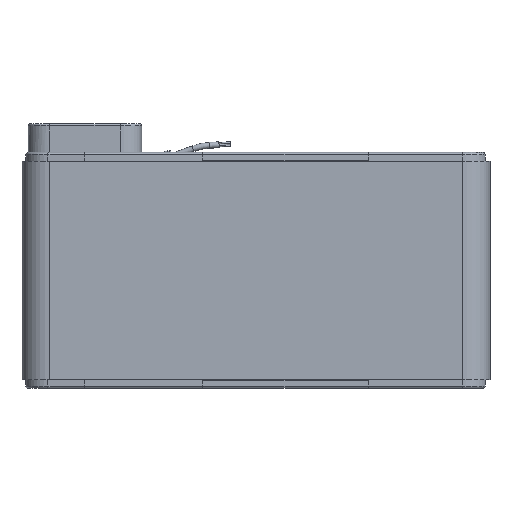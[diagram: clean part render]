
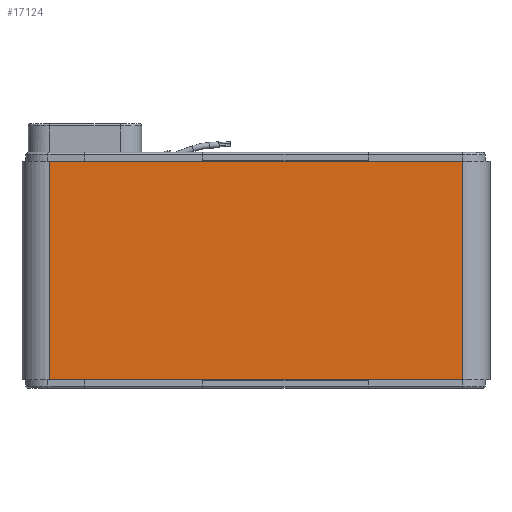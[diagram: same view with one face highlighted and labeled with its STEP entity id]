
A CAD part, left-side view. The second image highlights one B-rep face of the part: STEP entity #17124.
In plain terms, the highlighted planar face has unit normal (-1, 0, 0).
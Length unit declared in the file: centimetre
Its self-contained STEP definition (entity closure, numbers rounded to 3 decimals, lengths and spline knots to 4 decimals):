
#471=PLANE('',#18398);
#1347=FACE_OUTER_BOUND('',#2310,.T.);
#2310=EDGE_LOOP('',(#12215,#12216,#12217,#12218));
#4259=LINE('',#26469,#5600);
#4274=LINE('',#26502,#5615);
#4275=LINE('',#26505,#5616);
#4276=LINE('',#26506,#5617);
#5600=VECTOR('',#21072,1.);
#5615=VECTOR('',#21095,1.);
#5616=VECTOR('',#21098,1.);
#5617=VECTOR('',#21099,1.);
#7117=VERTEX_POINT('',#26463);
#7119=VERTEX_POINT('',#26467);
#7133=VERTEX_POINT('',#26500);
#7134=VERTEX_POINT('',#26504);
#9023=EDGE_CURVE('',#7117,#7119,#4259,.T.);
#9040=EDGE_CURVE('',#7119,#7133,#4274,.T.);
#9041=EDGE_CURVE('',#7133,#7134,#4275,.T.);
#9042=EDGE_CURVE('',#7117,#7134,#4276,.T.);
#12215=ORIENTED_EDGE('',*,*,#9023,.T.);
#12216=ORIENTED_EDGE('',*,*,#9040,.T.);
#12217=ORIENTED_EDGE('',*,*,#9041,.T.);
#12218=ORIENTED_EDGE('',*,*,#9042,.F.);
#17124=ADVANCED_FACE('',(#1347),#471,.T.);
#18398=AXIS2_PLACEMENT_3D('',#26503,#21096,#21097);
#21072=DIRECTION('',(0.,-1.,0.));
#21095=DIRECTION('',(0.,0.,1.));
#21096=DIRECTION('center_axis',(-1.,0.,0.));
#21097=DIRECTION('ref_axis',(0.,0.,
1.));
#21098=DIRECTION('',(0.,1.,0.));
#21099=DIRECTION('',(0.,0.,1.));
#26463=CARTESIAN_POINT('',(-2.33,13.,-9.25));
#26467=CARTESIAN_POINT('',(-2.33,-22.,-9.25));
#26469=CARTESIAN_POINT('',(-2.33,13.,-9.25));
#26500=CARTESIAN_POINT('',(-2.33,-22.,9.25));
#26502=CARTESIAN_POINT('',(-2.33,-22.,0.));
#26503=CARTESIAN_POINT('Origin',(-2.33,13.,0.));
#26504=CARTESIAN_POINT('',(-2.33,13.,9.25));
#26505=CARTESIAN_POINT('',(-2.33,13.,9.25));
#26506=CARTESIAN_POINT('',(-2.33,13.,0.));
